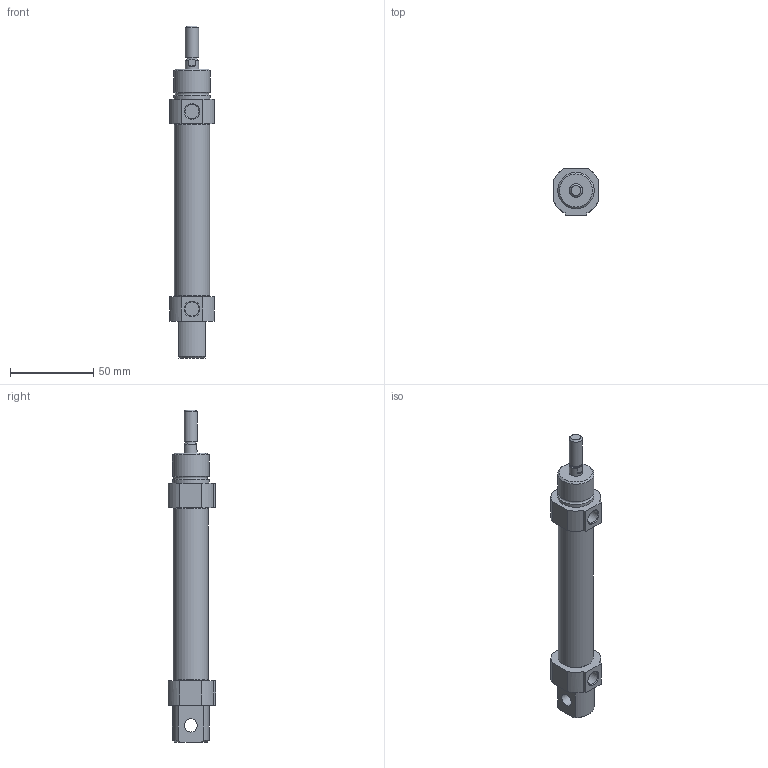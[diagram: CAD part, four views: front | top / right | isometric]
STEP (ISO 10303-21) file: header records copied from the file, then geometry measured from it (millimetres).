
FILE_DESCRIPTION((''),'2;1');
FILE_NAME('I:\3D電子目錄\氣缸\SDA\SDA20\SDA20\SDA20x75.stp','2007-08-06T10:31:58',('Administrator'),(''),'Autodesk Inventor 2008','Autodesk Inventor 2008','');
FILE_SCHEMA(('AUTOMOTIVE_DESIGN { 1 0 10303 214 1 1 1 1 }'));
Length unit declared in the file: millimetre
Products named in the file (1): SDA20X75
Bounding box: 27 x 28.5 x 200 mm (x, y, z)
Volume: 69929.8 mm3; surface area: 16032.3 mm2
Topology: 1 solids, 1 shells, 62 faces, 146 edges, 94 vertices
Faces by surface type: plane 30, cylinder 19, cone 10, bspline 2, torus 1
Full cylindrical faces by diameter (mm): 6.6 x1, 8 x3, 8.5 x2, 21.2 x1, 22 x2
Entity records: 1718 total; most frequent: CARTESIAN_POINT 307, DIRECTION 298, ORIENTED_EDGE 258, EDGE_CURVE 129, AXIS2_PLACEMENT_3D 116, VERTEX_POINT 93, EDGE_LOOP 88, VECTOR 66
